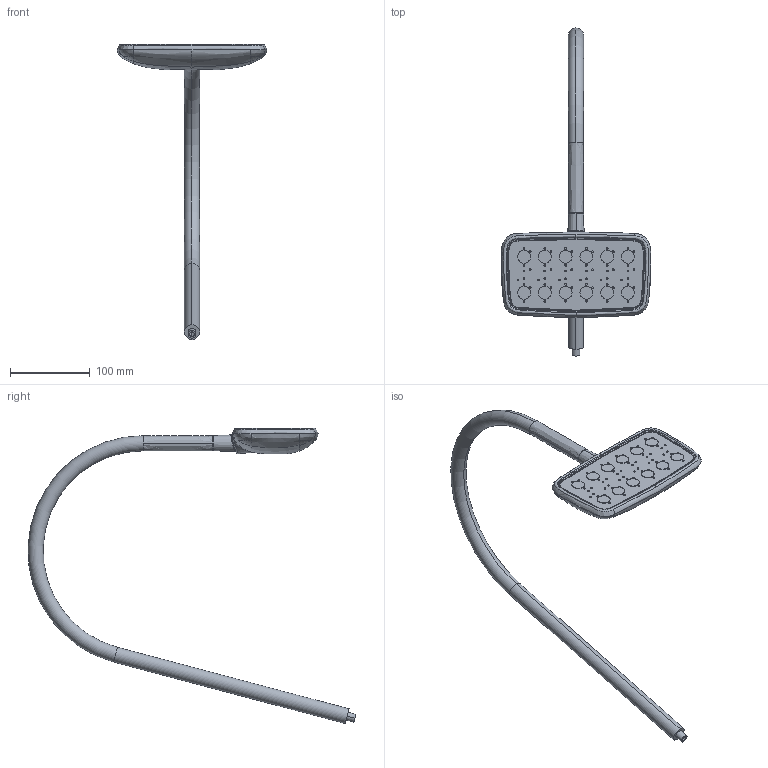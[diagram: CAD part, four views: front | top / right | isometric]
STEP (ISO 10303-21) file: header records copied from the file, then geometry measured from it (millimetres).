
FILE_DESCRIPTION (( 'STEP AP203' ), '1' );
FILE_NAME ('3D-TFH2.STEP', '2012-02-21T06:48:45', ( 'Jeremy' ), ( '' ), 'SwSTEP 2.0', 'SolidWorks 2010', '' );
FILE_SCHEMA (( 'CONFIG_CONTROL_DESIGN' ));
Length unit declared in the file: millimetre
Products named in the file (3): 3D-TFH2; TFH2; 蛇管
Assembly tree (2 placements, depth 2):
  3D-TFH2
    TFH2
    蛇管
Bounding box: 187.57 x 410.21 x 369.3 mm (x, y, z)
Volume: 626272.7 mm3; surface area: 181759.6 mm2
Topology: 6 solids, 6 shells, 301 faces, 672 edges, 519 vertices
Faces by surface type: plane 161, bspline 79, cylinder 52, torus 6, cone 3
Entity records: 41239 total; most frequent: CARTESIAN_POINT 34199, ORIENTED_EDGE 1344, DIRECTION 1340, EDGE_CURVE 672, AXIS2_PLACEMENT_3D 618, VERTEX_POINT 519, EDGE_LOOP 439, CIRCLE 391
